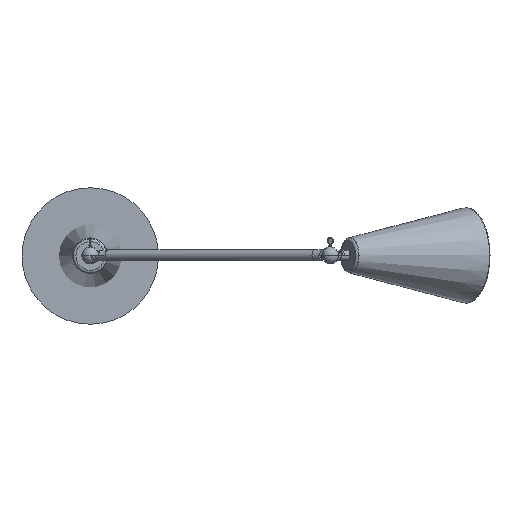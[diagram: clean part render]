
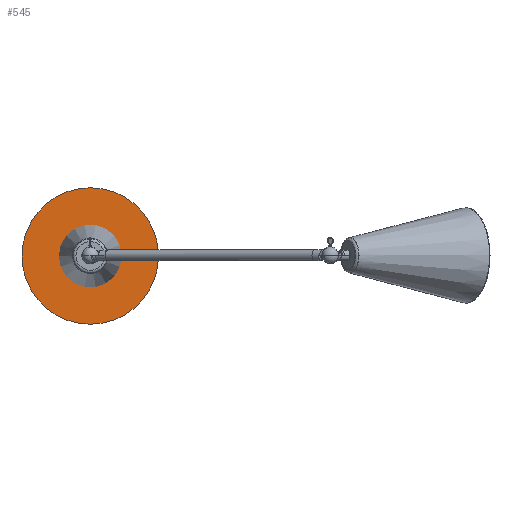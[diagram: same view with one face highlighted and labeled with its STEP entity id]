
A CAD part, top view. The second image highlights one B-rep face of the part: STEP entity #545.
In plain terms, the highlighted planar face has unit normal (0, 0, 1).
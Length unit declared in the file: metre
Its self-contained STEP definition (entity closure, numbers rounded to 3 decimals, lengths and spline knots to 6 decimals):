
#545 = ADVANCED_FACE( '', ( #656, #657 ), #658, .F. );
#656 = FACE_BOUND( '', #901, .T. );
#657 = FACE_OUTER_BOUND( '', #902, .T. );
#658 = PLANE( '', #903 );
#901 = EDGE_LOOP( '', ( #1154 ) );
#902 = EDGE_LOOP( '', ( #1155 ) );
#903 = AXIS2_PLACEMENT_3D( '', #1156, #1157, #1158 );
#1154 = ORIENTED_EDGE( '', *, *, #1832, .T. );
#1155 = ORIENTED_EDGE( '', *, *, #1830, .F. );
#1156 = CARTESIAN_POINT( '', ( 0., 0., 0.006 ) );
#1157 = DIRECTION( '', ( 0., 0., -1. ) );
#1158 = DIRECTION( '', ( -1., 0., 0. ) );
#1830 = EDGE_CURVE( '', #2025, #2025, #2026, .T. );
#1832 = EDGE_CURVE( '', #2029, #2029, #2030, .T. );
#2025 = VERTEX_POINT( '', #2356 );
#2026 = CIRCLE( '', #2357, 0.1 );
#2029 = VERTEX_POINT( '', #2360 );
#2030 = CIRCLE( '', #2361, 0.00325 );
#2356 = CARTESIAN_POINT( '', ( 0.1, 0., 0.006 ) );
#2357 = AXIS2_PLACEMENT_3D( '', #2906, #2907, #2908 );
#2360 = CARTESIAN_POINT( '', ( -0.00325, 0., 0.006 ) );
#2361 = AXIS2_PLACEMENT_3D( '', #2912, #2913, #2914 );
#2906 = CARTESIAN_POINT( '', ( 0., 0., 0.006 ) );
#2907 = DIRECTION( '', ( 0., 0., -1. ) );
#2908 = DIRECTION( '', ( 1., 0., 0. ) );
#2912 = CARTESIAN_POINT( '', ( 0., 0., 0.006 ) );
#2913 = DIRECTION( '', ( 0., 0., -1. ) );
#2914 = DIRECTION( '', ( -1., 0., 0. ) );
